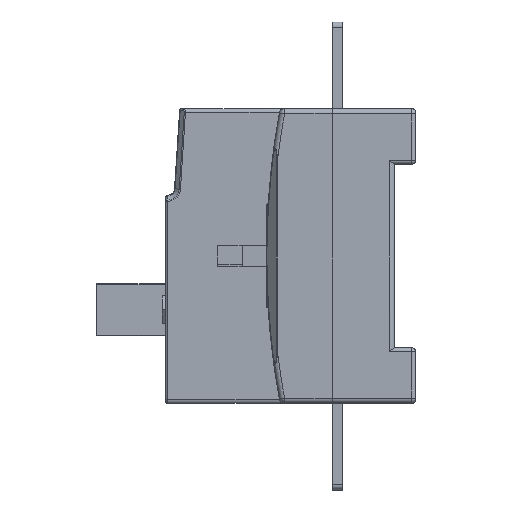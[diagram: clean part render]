
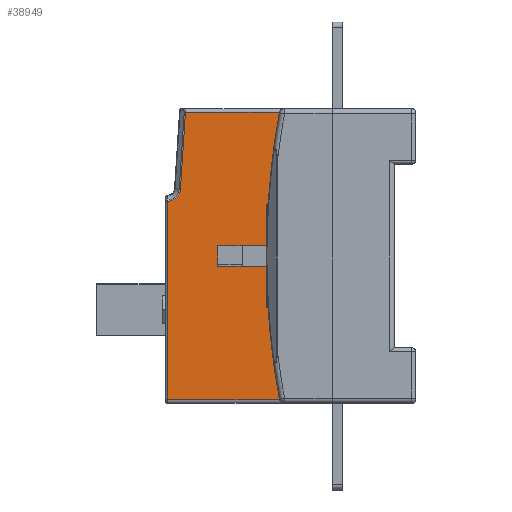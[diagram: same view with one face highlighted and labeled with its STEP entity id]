
A CAD part, left-side view. The second image highlights one B-rep face of the part: STEP entity #38949.
In plain terms, the highlighted planar face has unit normal (-1, 0, 0) as drawn and (1, 0, 0) by its records, which use the part's own axes.
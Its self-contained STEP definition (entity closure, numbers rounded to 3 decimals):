
#36365=DIRECTION('',(0.,1.,0.));
#36366=VECTOR('',#36365,32.5);
#36367=CARTESIAN_POINT('',(30.,0.5,-41.5));
#36368=LINE('',#36367,#36366);
#36373=CARTESIAN_POINT('',(30.,0.5,19.5));
#36374=DIRECTION('',(1.,0.,0.));
#36375=DIRECTION('',(0.,0.,-1.));
#36376=AXIS2_PLACEMENT_3D('',#36373,#36374,#36375);
#36378=DIRECTION('',(0.,0.065,0.998));
#36379=VECTOR('',#36378,22.287);
#36380=CARTESIAN_POINT('',(30.,4.199,19.26));
#36381=LINE('',#36380,#36379);
#36382=DIRECTION('',(0.,1.,0.));
#36383=VECTOR('',#36382,18.);
#36384=CARTESIAN_POINT('',(30.,15.,-3.));
#36385=LINE('',#36384,#36383);
#36386=DIRECTION('',(0.,0.,-1.));
#36387=VECTOR('',#36386,57.293);
#36388=CARTESIAN_POINT('',(30.,0.5,15.793));
#36389=LINE('',#36388,#36387);
#36891=DIRECTION('',(0.,0.,1.));
#36892=VECTOR('',#36891,6.);
#36893=CARTESIAN_POINT('',(30.,15.,-3.));
#36894=LINE('',#36893,#36892);
#36903=DIRECTION('',(0.,1.,0.));
#36904=VECTOR('',#36903,18.);
#36905=CARTESIAN_POINT('',(30.,15.,3.));
#36906=LINE('',#36905,#36904);
#36911=DIRECTION('',(0.,0.,1.));
#36912=VECTOR('',#36911,38.5);
#36913=CARTESIAN_POINT('',(30.,33.,3.));
#36914=LINE('',#36913,#36912);
#36947=DIRECTION('',(0.,0.,1.));
#36948=VECTOR('',#36947,38.5);
#36949=CARTESIAN_POINT('',(30.,33.,-41.5));
#36950=LINE('',#36949,#36948);
#36964=DIRECTION('',(0.,-1.,0.));
#36965=VECTOR('',#36964,27.354);
#36966=CARTESIAN_POINT('',(30.,33.,41.5));
#36967=LINE('',#36966,#36965);
#38065=CARTESIAN_POINT('',(30.,0.5,-41.5));
#38066=VERTEX_POINT('',#38065);
#38067=CARTESIAN_POINT('',(30.,33.,-41.5));
#38068=VERTEX_POINT('',#38067);
#38069=CARTESIAN_POINT('',(30.,0.5,15.793));
#38070=VERTEX_POINT('',#38069);
#38071=CARTESIAN_POINT('',(30.,4.199,19.26));
#38072=VERTEX_POINT('',#38071);
#38073=CARTESIAN_POINT('',(30.,5.646,41.5));
#38074=VERTEX_POINT('',#38073);
#38075=CARTESIAN_POINT('',(30.,33.,41.5));
#38076=VERTEX_POINT('',#38075);
#38077=CARTESIAN_POINT('',(30.,33.,3.));
#38078=VERTEX_POINT('',#38077);
#38079=CARTESIAN_POINT('',(30.,15.,3.));
#38080=VERTEX_POINT('',#38079);
#38081=CARTESIAN_POINT('',(30.,15.,-3.));
#38082=VERTEX_POINT('',#38081);
#38083=CARTESIAN_POINT('',(30.,33.,-3.));
#38084=VERTEX_POINT('',#38083);
#38923=CARTESIAN_POINT('',(30.,0.,42.5));
#38924=DIRECTION('',(1.,0.,0.));
#38925=DIRECTION('',(0.,0.,-1.));
#38926=AXIS2_PLACEMENT_3D('',#38923,#38924,#38925);
#38927=PLANE('',#38926);
#38929=ORIENTED_EDGE('',*,*,#38928,.F.);
#38931=ORIENTED_EDGE('',*,*,#38930,.T.);
#38933=ORIENTED_EDGE('',*,*,#38932,.T.);
#38935=ORIENTED_EDGE('',*,*,#38934,.F.);
#38937=ORIENTED_EDGE('',*,*,#38936,.F.);
#38939=ORIENTED_EDGE('',*,*,#38938,.F.);
#38941=ORIENTED_EDGE('',*,*,#38940,.F.);
#38943=ORIENTED_EDGE('',*,*,#38942,.T.);
#38945=ORIENTED_EDGE('',*,*,#38944,.F.);
#38946=ORIENTED_EDGE('',*,*,#38915,.F.);
#38947=EDGE_LOOP('',(#38929,#38931,#38933,#38935,#38937,#38939,#38941,#38943,
#38945,#38946));
#38948=FACE_OUTER_BOUND('',#38947,.F.);
#36377=CIRCLE('',#36376,3.707);
#38915=EDGE_CURVE('',#38066,#38068,#36368,.T.);
#38928=EDGE_CURVE('',#38070,#38066,#36389,.T.);
#38930=EDGE_CURVE('',#38070,#38072,#36377,.T.);
#38932=EDGE_CURVE('',#38072,#38074,#36381,.T.);
#38934=EDGE_CURVE('',#38076,#38074,#36967,.T.);
#38936=EDGE_CURVE('',#38078,#38076,#36914,.T.);
#38938=EDGE_CURVE('',#38080,#38078,#36906,.T.);
#38940=EDGE_CURVE('',#38082,#38080,#36894,.T.);
#38942=EDGE_CURVE('',#38082,#38084,#36385,.T.);
#38944=EDGE_CURVE('',#38068,#38084,#36950,.T.);
#38949=ADVANCED_FACE('',(#38948),#38927,.T.);
